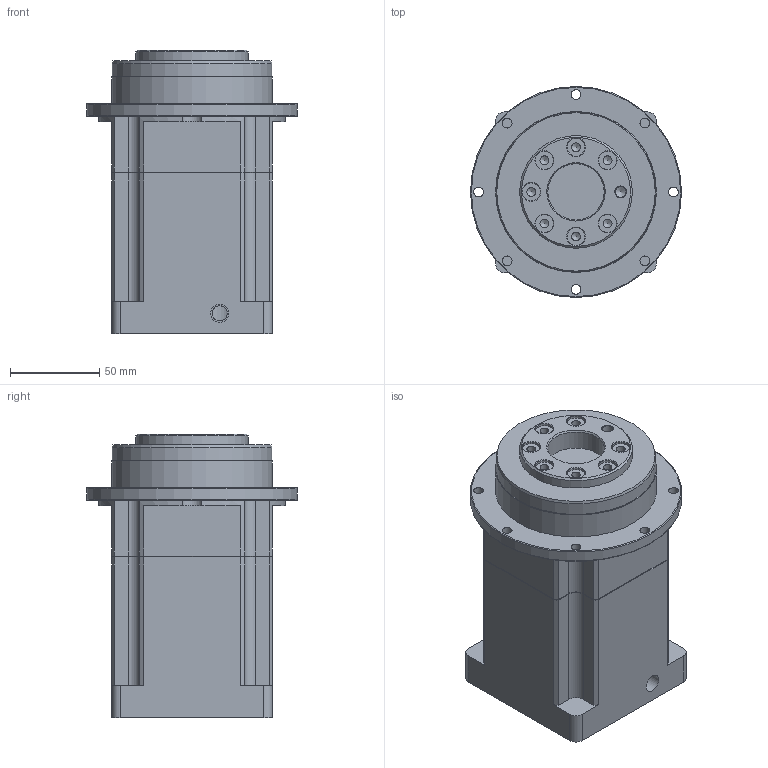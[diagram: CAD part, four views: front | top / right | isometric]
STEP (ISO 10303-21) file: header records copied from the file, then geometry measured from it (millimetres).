
FILE_DESCRIPTION((''),'2;1');
FILE_NAME('D:\유성\유성\도면\3D\2. 홈페이지용 3D 도면 (ipt)\외부도\SPIFH090\SPIFH090 SERIES (2 STAGE-A TYPE)_Shrinkwrap_1.stp','2014-05-08T14:21:25',('nagyu'),(''),'Autodesk Inventor 2013','Autodesk Inventor 2013','');
FILE_SCHEMA(('AUTOMOTIVE_DESIGN { 1 0 10303 214 1 1 1 1 }'));
Length unit declared in the file: millimetre
Products named in the file (1): SPIFH090 SERIES (2 STAGE-A TYPE)_Shrinkwrap_1
Bounding box: 118 x 118 x 158.7 mm (x, y, z)
Volume: 1063533.3 mm3; surface area: 89140.4 mm2
Topology: 1 solids, 1 shells, 190 faces, 488 edges, 312 vertices
Faces by surface type: plane 72, cylinder 70, cone 46, torus 2
Full cylindrical faces by diameter (mm): 4.917 x11, 5.5 x8, 6 x1, 8.5 x1, 10 x8, 19 x1, 30 x1, 31.5 x1, 63 x1, 64 x1, 70 x1, 89.4 x1, 90 x1, 118 x1
Entity records: 5246 total; most frequent: CARTESIAN_POINT 950, DIRECTION 938, ORIENTED_EDGE 772, AXIS2_PLACEMENT_3D 386, EDGE_CURVE 386, EDGE_LOOP 292, VERTEX_POINT 280, CIRCLE 191
